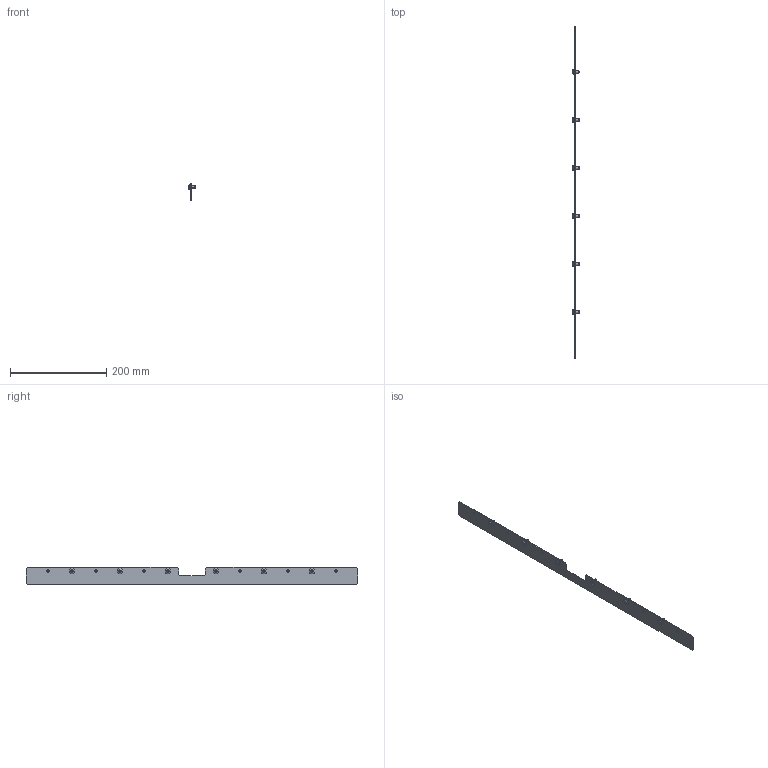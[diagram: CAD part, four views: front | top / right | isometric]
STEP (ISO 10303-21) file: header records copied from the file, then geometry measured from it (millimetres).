
FILE_DESCRIPTION (( 'STEP AP214' ), '1' );
FILE_NAME ('FO-00-BPS1-080 Ïëàíêà ñåêöèîíèðîâàíèÿ êîìïåíñàöèîííàÿ òèï 1 (12,5ìì) â øêàô øèðèíîé 800 ìì.STEP', '2025-08-12T12:02:35', ( '' ), ( '' ), 'SwSTEP 2.0', 'SolidWorks 2023', '' );
FILE_SCHEMA (( 'AUTOMOTIVE_DESIGN' ));
Length unit declared in the file: millimetre
Products named in the file (1): FO-00-BPS1-080 Планка секционирования компенсационная тип 1 (12,5мм) в шкаф шириной 800 мм
Bounding box: 14.34 x 691.5 x 35.5 mm (x, y, z)
Volume: 38663.4 mm3; surface area: 51431.3 mm2
Topology: 1 solids, 1 shells, 204 faces, 534 edges, 344 vertices
Faces by surface type: cylinder 138, plane 30, torus 12, cone 12, sphere 12
Entity records: 6569 total; most frequent: CARTESIAN_POINT 1485, DIRECTION 1076, ORIENTED_EDGE 1068, EDGE_CURVE 534, AXIS2_PLACEMENT_3D 439, VERTEX_POINT 344, CIRCLE 234, EDGE_LOOP 228
